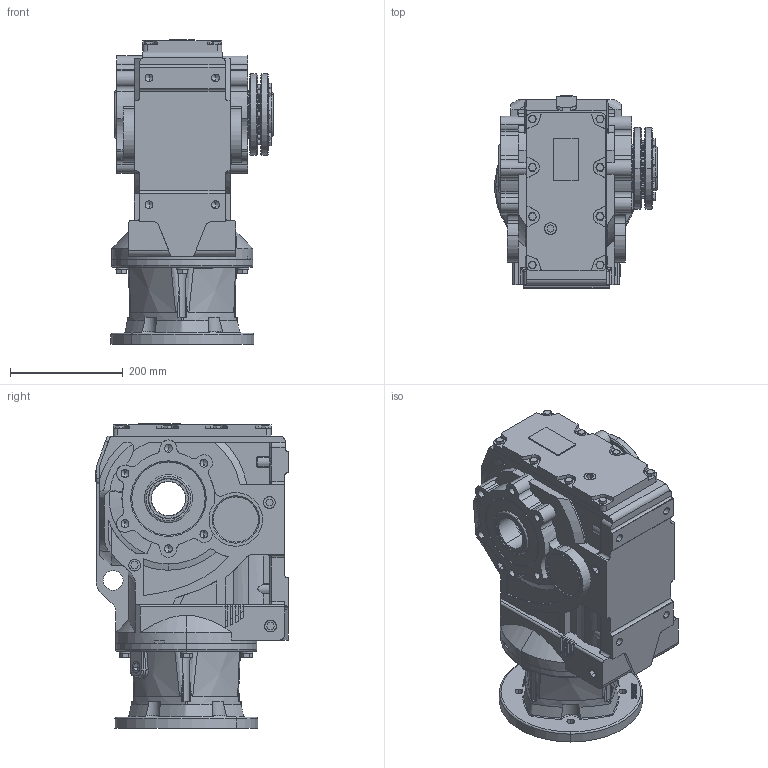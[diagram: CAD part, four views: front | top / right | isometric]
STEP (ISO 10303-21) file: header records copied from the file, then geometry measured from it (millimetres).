
FILE_DESCRIPTION (( 'STEP AP203' ), '1' );
FILE_NAME ('KAN87-254TC-A-POWER LOCK.STEP', '2020-12-04T06:15:32', ( 'Microsoft' ), ( 'Microsoft' ), 'SwSTEP 2.0', 'SolidWorks 2012', '' );
FILE_SCHEMA (( 'CONFIG_CONTROL_DESIGN' ));
Length unit declared in the file: millimetre
Products named in the file (1): KAN87-254TC-A-POWER LOCK
Bounding box: 287.52 x 340.5 x 540.5 mm (x, y, z)
Volume: 25361701.4 mm3; surface area: 1050999.2 mm2
Topology: 2 solids, 22 shells, 1711 faces, 4397 edges, 2791 vertices
Faces by surface type: plane 690, cylinder 493, cone 323, bspline 142, torus 63
Entity records: 63630 total; most frequent: CARTESIAN_POINT 22864, ORIENTED_EDGE 8654, DIRECTION 8201, EDGE_CURVE 4327, AXIS2_PLACEMENT_3D 3024, VERTEX_POINT 2791, LINE 2153, VECTOR 2153
